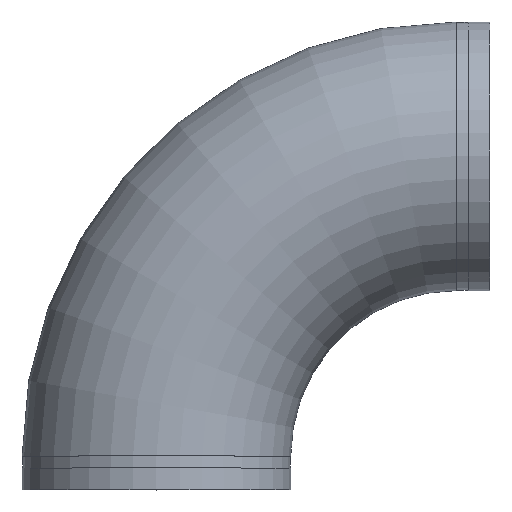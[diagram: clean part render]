
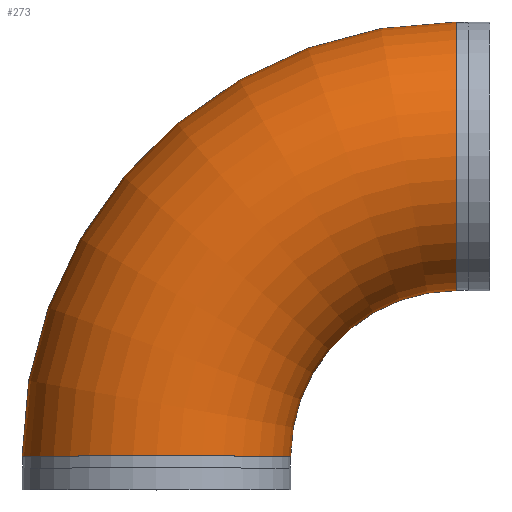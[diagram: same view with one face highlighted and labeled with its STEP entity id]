
A CAD part, top view. The second image highlights one B-rep face of the part: STEP entity #273.
In plain terms, the highlighted toroidal (fillet/blend) face has major radius 397.002 mm and minor radius 177.8 mm.
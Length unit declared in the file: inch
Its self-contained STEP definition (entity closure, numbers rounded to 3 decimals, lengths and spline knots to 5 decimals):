
#46=TOROIDAL_SURFACE('',#329,15.63,7.);
#81=FACE_OUTER_BOUND('',#99,.T.);
#99=EDGE_LOOP('',(#227,#228,#229,#230,#231,#232));
#105=CIRCLE('',#298,7.);
#106=CIRCLE('',#299,7.);
#117=CIRCLE('',#315,7.);
#118=CIRCLE('',#316,7.);
#127=CIRCLE('',#330,8.63);
#129=VERTEX_POINT('',#460);
#130=VERTEX_POINT('',#461);
#141=VERTEX_POINT('',#491);
#142=VERTEX_POINT('',#492);
#151=EDGE_CURVE('',#129,#130,#105,.T.);
#152=EDGE_CURVE('',#130,#129,#106,.T.);
#165=EDGE_CURVE('',#141,#142,#117,.T.);
#166=EDGE_CURVE('',#142,#141,#118,.T.);
#178=EDGE_CURVE('',#142,#130,#127,.T.);
#227=ORIENTED_EDGE('',*,*,#165,.F.);
#228=ORIENTED_EDGE('',*,*,#166,.F.);
#229=ORIENTED_EDGE('',*,*,#178,.T.);
#230=ORIENTED_EDGE('',*,*,#152,.T.);
#231=ORIENTED_EDGE('',*,*,#151,.T.);
#232=ORIENTED_EDGE('',*,*,#178,.F.);
#273=ADVANCED_FACE('',(#81),#46,.T.);
#298=AXIS2_PLACEMENT_3D('',#462,#352,#353);
#299=AXIS2_PLACEMENT_3D('',#463,#354,#355);
#315=AXIS2_PLACEMENT_3D('',#493,#388,#389);
#316=AXIS2_PLACEMENT_3D('',#494,#390,#391);
#329=AXIS2_PLACEMENT_3D('',#517,#419,#420);
#330=AXIS2_PLACEMENT_3D('',#518,#421,#422);
#352=DIRECTION('center_axis',(-1.,0.,0.));
#353=DIRECTION('ref_axis',(0.,-1.,0.));
#354=DIRECTION('center_axis',(-1.,0.,0.));
#355=DIRECTION('ref_axis',(0.,-1.,0.));
#388=DIRECTION('center_axis',(0.,-1.,0.));
#389=DIRECTION('ref_axis',(1.,0.,0.));
#390=DIRECTION('center_axis',(0.,-1.,0.));
#391=DIRECTION('ref_axis',(1.,0.,0.));
#419=DIRECTION('center_axis',(0.,0.,1.));
#420=DIRECTION('ref_axis',(1.,0.,0.));
#421=DIRECTION('center_axis',(0.,0.,-1.));
#422=DIRECTION('ref_axis',(1.,0.,0.));
#460=CARTESIAN_POINT('',(15.63,24.38,0.));
#461=CARTESIAN_POINT('',(15.63,10.38,0.));
#462=CARTESIAN_POINT('Origin',(15.63,17.38,0.));
#463=CARTESIAN_POINT('Origin',(15.63,17.38,0.));
#491=CARTESIAN_POINT('',(-7.,1.75,0.));
#492=CARTESIAN_POINT('',(7.,1.75,0.));
#493=CARTESIAN_POINT('Origin',(0.,1.75,0.));
#494=CARTESIAN_POINT('Origin',(0.,1.75,0.));
#517=CARTESIAN_POINT('Origin',(15.63,1.75,0.));
#518=CARTESIAN_POINT('Origin',(15.63,1.75,0.));
